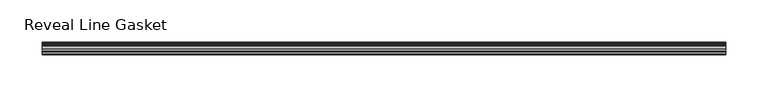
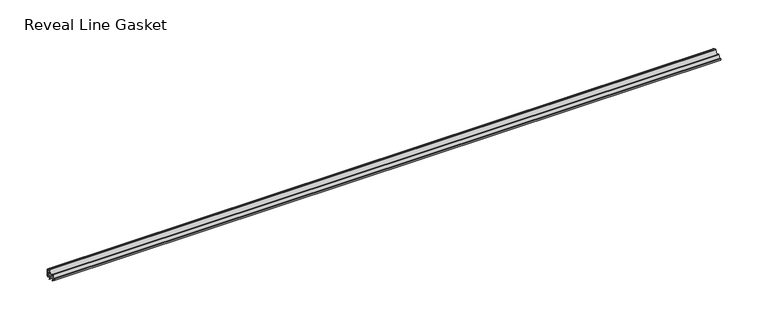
"""IFC4 building model written with IfcOpenShell, lengths in millimetres: proxy geometry, Accessories-Teknion-FHGR-AI_Healthcare-Reveal_Line_Gasket(Horizontal)-R2022 : Reveal Line Gasket."""

from ifc_helpers import new_model, si_unit, point, frame, frame_2d, origin, place, context, project, spatial, polyline, circle_curve, trimmed, segment, composite_curve, outline, extrude, source, transform, mapped, element, save


def reveal_line_gasket_58dce0bb(model_context):
    return source(origin(), model_context, "Body", "SweptSolid", [
        extrude(outline(composite_curve([segment(polyline([(7.6326998, 1603.2), (7.6326998, 1597.2), (7.4091917, 1596.2445073), (6.8813059, 1595.3115316)]), True, "CONTINUOUS"), segment(trimmed(circle_curve(frame_2d((6.5243141, 1595.5135207)), 0.4101739), [point((6.8813059, 1595.3115316))], [point((6.1246704, 1595.6058653))], False, "CARTESIAN"), True, "CONTINUOUS"), segment(polyline([(6.1246704, 1595.6058653), (6.3626997, 1597.3020914), (6.3626997, 1599.3345473)]), True, "CONTINUOUS"), segment(trimmed(circle_curve(frame_2d((5.6959605, 1598.9180742)), 0.786124), [point((6.3626997, 1599.3345473))], [point((5.0926996, 1599.422125))], True, "CARTESIAN"), True, "CONTINUOUS"), segment(polyline([(5.0926996, 1599.422125), (0.7492996, 1599.422125), (3.7293824, 1594.2604705)]), True, "CONTINUOUS"), segment(trimmed(circle_curve(frame_2d((3.3132479, 1594.1950239)), 0.4212495), [point((3.7293824, 1594.2604705))], [point((3.0485022, 1593.8673642))], False, "CARTESIAN"), True, "CONTINUOUS"), segment(polyline([(3.0485022, 1593.8673642), (-0.5742594, 1599.422125), (-4.8262978, 1599.422125), (-3.1660374, 1596.5464703)]), True, "CONTINUOUS"), segment(trimmed(circle_curve(frame_2d((-3.5978728, 1596.4881145)), 0.4357605), [point((-3.1660374, 1596.5464703))], [point((-3.864328, 1596.1433119))], False, "CARTESIAN"), True, "CONTINUOUS"), segment(polyline([(-3.864328, 1596.1433119), (-6.1944059, 1599.422125), (-7.6326998, 1599.422125), (-7.6326998, 1600.977875), (-6.1944059, 1600.977875), (-3.864328, 1604.2566881)]), True, "CONTINUOUS"), segment(trimmed(circle_curve(frame_2d((-3.5978728, 1603.9118855)), 0.4357605), [point((-3.864328, 1604.2566881))], [point((-3.1660374, 1603.8535297))], False, "CARTESIAN"), True, "CONTINUOUS"), segment(polyline([(-3.1660374, 1603.8535297), (-4.8262978, 1600.977875), (-0.5742594, 1600.977875), (3.0485022, 1606.5326358)]), True, "CONTINUOUS"), segment(trimmed(circle_curve(frame_2d((3.3132479, 1606.2049761)), 0.4212495), [point((3.0485022, 1606.5326358))], [point((3.7293824, 1606.1395295))], False, "CARTESIAN"), True, "CONTINUOUS"), segment(polyline([(3.7293824, 1606.1395295), (0.7492996, 1600.977875), (5.0926996, 1600.977875)]), True, "CONTINUOUS"), segment(trimmed(circle_curve(frame_2d((5.6959605, 1601.4819258)), 0.786124), [point((5.0926996, 1600.977875))], [point((6.3626997, 1601.0654527))], True, "CARTESIAN"), True, "CONTINUOUS"), segment(polyline([(6.3626997, 1601.0654527), (6.3626997, 1603.0979086), (6.1246704, 1604.7941347)]), True, "CONTINUOUS"), segment(trimmed(circle_curve(frame_2d((6.5243141, 1604.8864793)), 0.4101739), [point((6.1246704, 1604.7941347))], [point((6.8813059, 1605.0884684))], False, "CARTESIAN"), True, "CONTINUOUS"), segment(polyline([(6.8813059, 1605.0884684), (7.4091917, 1604.1554927), (7.6326998, 1603.2)]), True, "CONTINUOUS")], self_intersect=False)), frame((-406.3582328, 0.0, 0.0), z_axis=(1.0, 0.0, 0.0), x_axis=(0.0, 1.0, 0.0)), (0.0, 0.0, 1.0), 812.7164656),
    ])


if __name__ == "__main__":
    model = new_model("IFC4")
    model_context = context("Model", 3, world=origin())
    ifc_project = project(units=[si_unit("LENGTHUNIT", "METRE", prefix="MILLI")], contexts=[model_context])
    site = spatial("IfcSite", under=ifc_project)
    building = spatial("IfcBuilding", under=site)
    placement = place(None, origin())
    reveal_line_gasket_shape = reveal_line_gasket_58dce0bb(model_context)
    element("IfcBuildingElementProxy", 1, Name="Accessories-Teknion-FHGR-AI_Healthcare-Reveal_Line_Gasket(Horizontal)-R2022 : Reveal Line Gasket", ObjectType="Accessories-Teknion-FHGR-AI_Healthcare-Reveal_Line_Gasket(Horizontal)-R2022 : Reveal Line Gasket", at=placement, inside=building, context=model_context, shape_type="MappedRepresentation", body=[
        mapped(reveal_line_gasket_shape, transform((0.0, 0.0, 0.0), x_axis=(1.0, 0.0, 0.0), y_axis=(0.0, 1.0, 0.0), z_axis=(0.0, 0.0, 1.0))),
    ])
    save(model, "model.ifc")
